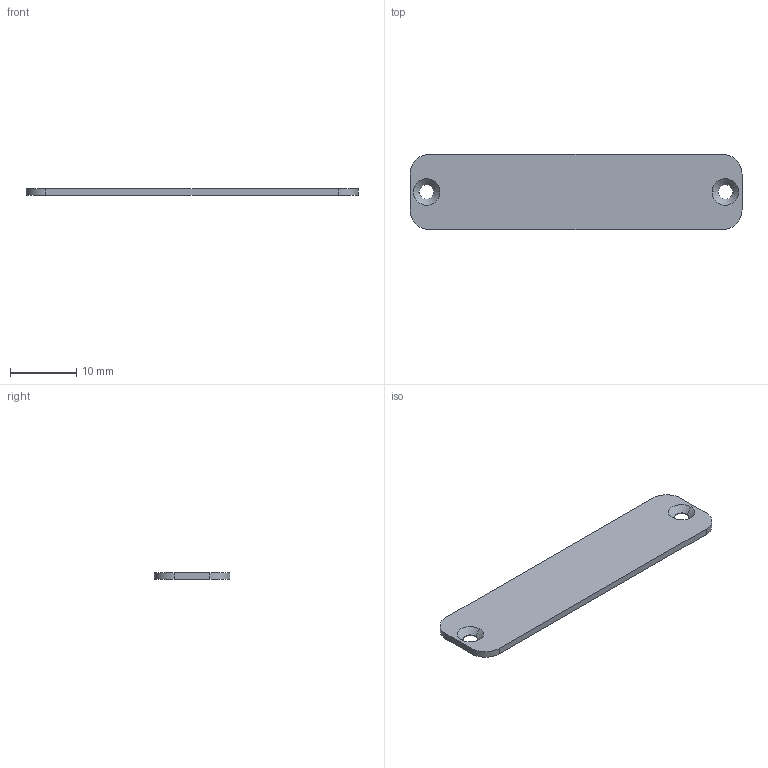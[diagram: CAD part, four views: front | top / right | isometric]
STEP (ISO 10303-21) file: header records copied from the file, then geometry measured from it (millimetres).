
FILE_DESCRIPTION (( 'STEP AP203' ), '1' );
FILE_NAME ('殑結輸2.STEP', '2026-09-24T09:11:35', ( '' ), ( '' ), 'SwSTEP 2.0', 'SolidWorks 2016', '' );
FILE_SCHEMA (( 'CONFIG_CONTROL_DESIGN' ));
Length unit declared in the file: millimetre
Products named in the file (1): 殑結輸2
Bounding box: 50 x 11.4 x 1 mm (x, y, z)
Volume: 547.5 mm3; surface area: 1235.6 mm2
Topology: 1 solids, 1 shells, 18 faces, 44 edges, 28 vertices
Faces by surface type: cylinder 8, plane 6, cone 4
Entity records: 621 total; most frequent: DIRECTION 102, CARTESIAN_POINT 91, ORIENTED_EDGE 88, EDGE_CURVE 44, AXIS2_PLACEMENT_3D 39, VERTEX_POINT 28, VECTOR 24, LINE 24
